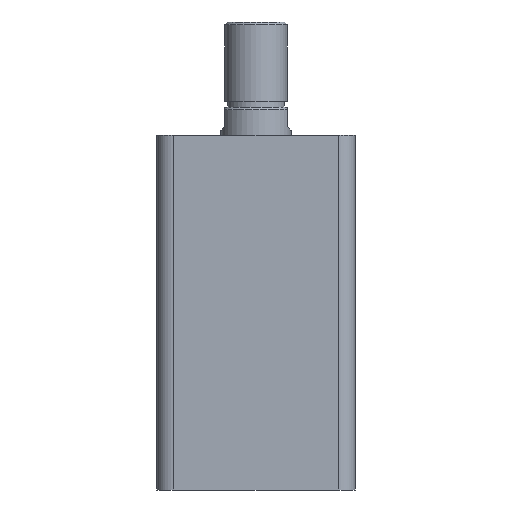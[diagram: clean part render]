
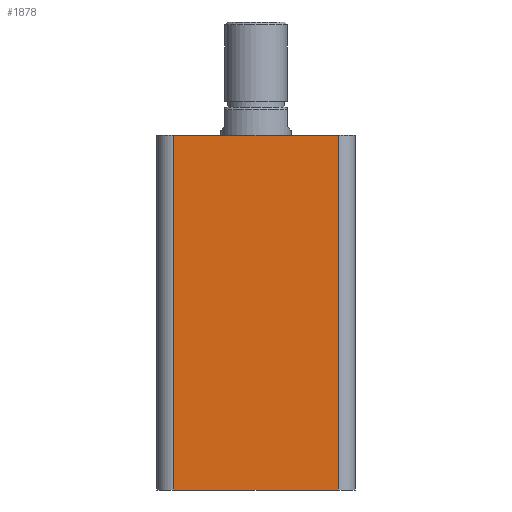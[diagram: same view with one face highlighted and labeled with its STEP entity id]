
A CAD part, front view. The second image highlights one B-rep face of the part: STEP entity #1878.
In plain terms, the highlighted planar face has unit normal (0, -1, 0).
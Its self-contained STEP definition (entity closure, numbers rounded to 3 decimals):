
#3 = LINE ( 'NONE', #2565, #36 ) ;
#10 = LINE ( 'NONE', #2550, #19 ) ;
#19 = VECTOR ( 'NONE', #2555, 1000. ) ;
#20 = LINE ( 'NONE', #2552, #24 ) ;
#24 = VECTOR ( 'NONE', #2554, 1000. ) ;
#29 = LINE ( 'NONE', #2543, #34 ) ;
#34 = VECTOR ( 'NONE', #2549, 1000. ) ;
#36 = VECTOR ( 'NONE', #2551, 1000. ) ;
#263 = ORIENTED_EDGE ( 'NONE', *, *, #2078, .T. ) ;
#264 = ORIENTED_EDGE ( 'NONE', *, *, #2077, .T. ) ;
#267 = ORIENTED_EDGE ( 'NONE', *, *, #2076, .T. ) ;
#268 = ORIENTED_EDGE ( 'NONE', *, *, #2075, .F. ) ;
#374 = EDGE_LOOP ( 'NONE', ( #268, #267, #264, #263 ) ) ;
#549 = VERTEX_POINT ( 'NONE', #1971 ) ;
#596 = VERTEX_POINT ( 'NONE', #1967 ) ;
#631 = VERTEX_POINT ( 'NONE', #1953 ) ;
#644 = VERTEX_POINT ( 'NONE', #1940 ) ;
#780 = AXIS2_PLACEMENT_3D ( 'NONE', #885, #843, #846 ) ;
#843 = DIRECTION ( 'NONE',  ( 0., 1., 0. ) ) ;
#846 = DIRECTION ( 'NONE',  ( 0., 0., 1. ) ) ;
#850 = PLANE ( 'NONE',  #780 ) ;
#885 = CARTESIAN_POINT ( 'NONE',  ( -35., -35., 125. ) ) ;
#1673 = FACE_OUTER_BOUND ( 'NONE', #374, .T. ) ;
#1878 = ADVANCED_FACE ( 'NONE', ( #1673 ), #850, .F. ) ;
#1940 = CARTESIAN_POINT ( 'NONE',  ( 29., -35., 0. ) ) ;
#1953 = CARTESIAN_POINT ( 'NONE',  ( -29., -35., 125. ) ) ;
#1967 = CARTESIAN_POINT ( 'NONE',  ( 29., -35., 125. ) ) ;
#1971 = CARTESIAN_POINT ( 'NONE',  ( -29., -35., 0. ) ) ;
#2075 = EDGE_CURVE ( 'NONE', #631, #596, #10, .T. ) ;
#2076 = EDGE_CURVE ( 'NONE', #631, #549, #20, .T. ) ;
#2077 = EDGE_CURVE ( 'NONE', #549, #644, #3, .T. ) ;
#2078 = EDGE_CURVE ( 'NONE', #644, #596, #29, .T. ) ;
#2543 = CARTESIAN_POINT ( 'NONE',  ( 29., -35., 125. ) ) ;
#2549 = DIRECTION ( 'NONE',  ( 0., 0., 1. ) ) ;
#2550 = CARTESIAN_POINT ( 'NONE',  ( -35., -35., 125. ) ) ;
#2551 = DIRECTION ( 'NONE',  ( 1., 0., 0. ) ) ;
#2552 = CARTESIAN_POINT ( 'NONE',  ( -29., -35., 125. ) ) ;
#2554 = DIRECTION ( 'NONE',  ( 0., 0., -1. ) ) ;
#2555 = DIRECTION ( 'NONE',  ( 1., 0., 0. ) ) ;
#2565 = CARTESIAN_POINT ( 'NONE',  ( -35., -35., 0. ) ) ;
